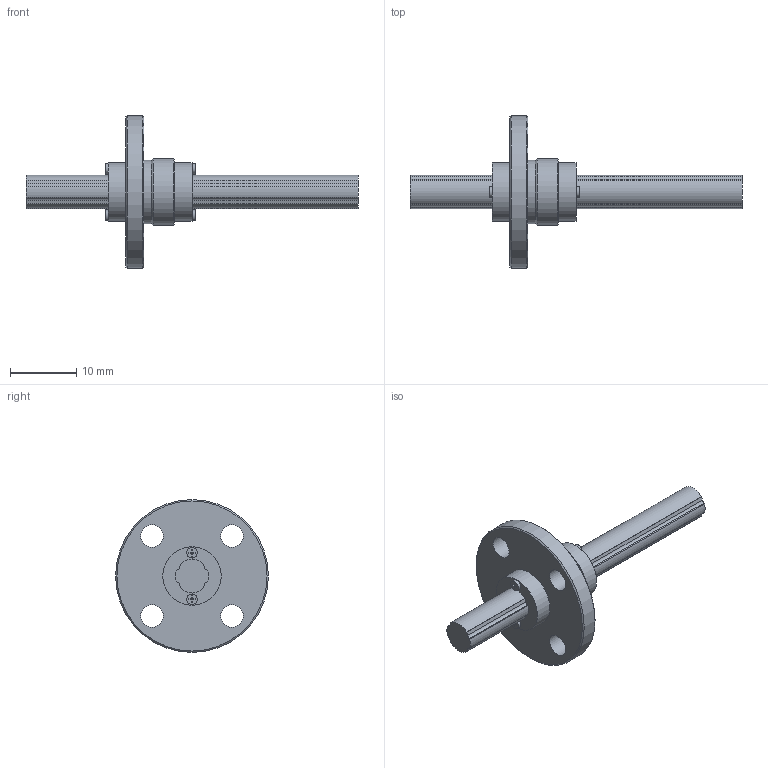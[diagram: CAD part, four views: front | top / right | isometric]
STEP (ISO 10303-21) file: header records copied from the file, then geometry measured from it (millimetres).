
FILE_DESCRIPTION(/* description */ ('STEP AP214'),/* implementation_level */ '2;1');
FILE_NAME(/* name */ 'LF5X+50L(00)',/* time_stamp */ '2024-09-05T14:41:21+02:00',/* author */ ('License CC BY-ND 4.0'),/* organization */ ('CADENAS'),/* preprocessor_version */ 'ST-DEVELOPER v19.3',/* originating_system */ 'PARTsolutions',/* authorisation */ ' ');
FILE_SCHEMA (('AUTOMOTIVE_DESIGN {1 0 10303 214 3 1 1}'));
Length unit declared in the file: millimetre
Products named in the file (3): LF5X+50L(00); 1LT5X 50Shaft; 1LF5X Cylindar
Assembly tree (2 placements, depth 2):
  LF5X+50L(00)
    1LT5X 50Shaft
    1LF5X Cylindar
Bounding box: 50 x 23 x 23 mm (x, y, z)
Volume: 2407.8 mm3; surface area: 2360 mm2
Topology: 2 solids, 2 shells, 120 faces, 312 edges, 207 vertices
Faces by surface type: plane 71, cylinder 45, cone 4
Full cylindrical faces by diameter (mm): 1.6 x4, 3.4 x4, 8.8 x2, 9.6 x1, 10 x1, 23 x1
Entity records: 3677 total; most frequent: DIRECTION 632, CARTESIAN_POINT 621, ORIENTED_EDGE 586, EDGE_CURVE 293, AXIS2_PLACEMENT_3D 216, VERTEX_POINT 205, LINE 200, VECTOR 200
